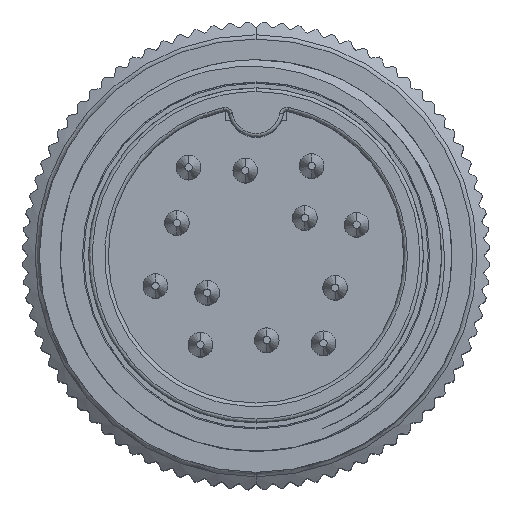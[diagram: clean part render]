
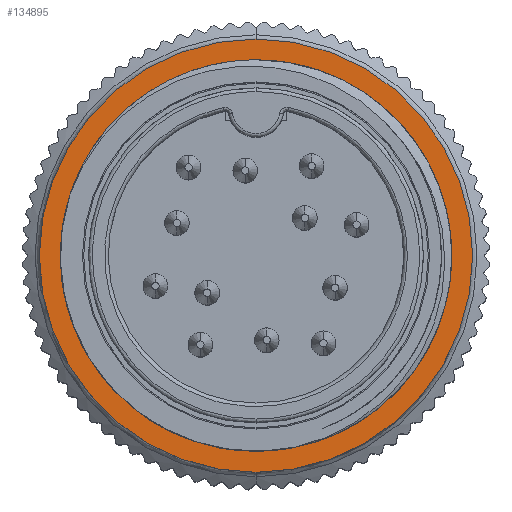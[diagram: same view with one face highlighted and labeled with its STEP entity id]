
A CAD part, top view. The second image highlights one B-rep face of the part: STEP entity #134895.
In plain terms, the highlighted planar face has unit normal (0, 0, 1).
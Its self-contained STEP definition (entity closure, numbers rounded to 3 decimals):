
#9803 = AXIS2_PLACEMENT_3D ( 'NONE', #12072, #93695, #194557 ) ;
#10994 = CIRCLE ( 'NONE', #174053, 7.95 ) ;
#12072 = CARTESIAN_POINT ( 'NONE',  ( 0., 0., -9.2 ) ) ;
#16065 = EDGE_CURVE ( 'NONE', #62329, #53335, #124052, .T. ) ;
#16671 = EDGE_CURVE ( 'NONE', #213331, #76345, #117515, .T. ) ;
#16959 = FACE_OUTER_BOUND ( 'NONE', #65692, .T. ) ;
#26178 = CARTESIAN_POINT ( 'NONE',  ( 0., 0., -9.2 ) ) ;
#27186 = EDGE_LOOP ( 'NONE', ( #128114, #207873, #169670 ) ) ;
#31149 = ORIENTED_EDGE ( 'NONE', *, *, #95324, .F. ) ;
#38713 = AXIS2_PLACEMENT_3D ( 'NONE', #191358, #108891, #175108 ) ;
#38732 = ORIENTED_EDGE ( 'NONE', *, *, #16065, .F. ) ;
#39532 = CARTESIAN_POINT ( 'NONE',  ( 0., 7.95, -9.2 ) ) ;
#48725 = DIRECTION ( 'NONE',  ( -1., 0., 0. ) ) ;
#53082 = DIRECTION ( 'NONE',  ( 0., 0., -1. ) ) ;
#53335 = VERTEX_POINT ( 'NONE', #90173 ) ;
#62329 = VERTEX_POINT ( 'NONE', #141811 ) ;
#65692 = EDGE_LOOP ( 'NONE', ( #31149, #38732 ) ) ;
#76345 = VERTEX_POINT ( 'NONE', #111692 ) ;
#81516 = DIRECTION ( 'NONE',  ( 0., 0., 1. ) ) ;
#90173 = CARTESIAN_POINT ( 'NONE',  ( 0., 8.8, -9.2 ) ) ;
#93695 = DIRECTION ( 'NONE',  ( 0., 0., 1. ) ) ;
#94817 = CIRCLE ( 'NONE', #122589, 8.8 ) ;
#95324 = EDGE_CURVE ( 'NONE', #53335, #62329, #94817, .T. ) ;
#108891 = DIRECTION ( 'NONE',  ( 0., 0., 1. ) ) ;
#111692 = CARTESIAN_POINT ( 'NONE',  ( -6.885, -3.975, -9.2 ) ) ;
#115887 = FACE_BOUND ( 'NONE', #27186, .T. ) ;
#116220 = EDGE_CURVE ( 'NONE', #177500, #213331, #118615, .T. ) ;
#117515 = CIRCLE ( 'NONE', #9803, 7.95 ) ;
#118044 = CARTESIAN_POINT ( 'NONE',  ( 0., 0., -9.2 ) ) ;
#118615 = CIRCLE ( 'NONE', #38713, 7.95 ) ;
#120468 = DIRECTION ( 'NONE',  ( -1., 0., 0. ) ) ;
#122589 = AXIS2_PLACEMENT_3D ( 'NONE', #172529, #53082, #120468 ) ;
#124052 = CIRCLE ( 'NONE', #151725, 8.8 ) ;
#128114 = ORIENTED_EDGE ( 'NONE', *, *, #16671, .F. ) ;
#134895 = ADVANCED_FACE ( 'NONE', ( #115887, #16959 ), #201557, .F. ) ;
#137435 = CARTESIAN_POINT ( 'NONE',  ( -0.576, 7.929, -9.2 ) ) ;
#141811 = CARTESIAN_POINT ( 'NONE',  ( 0., -8.8, -9.2 ) ) ;
#148644 = CARTESIAN_POINT ( 'NONE',  ( 0., 0., -9.2 ) ) ;
#151725 = AXIS2_PLACEMENT_3D ( 'NONE', #148644, #200680, #48725 ) ;
#165831 = DIRECTION ( 'NONE',  ( -1., 0., 0. ) ) ;
#166898 = DIRECTION ( 'NONE',  ( 0., 0., -1. ) ) ;
#168047 = AXIS2_PLACEMENT_3D ( 'NONE', #118044, #166898, #165831 ) ;
#169670 = ORIENTED_EDGE ( 'NONE', *, *, #201048, .F. ) ;
#172529 = CARTESIAN_POINT ( 'NONE',  ( 0., 0., -9.2 ) ) ;
#174053 = AXIS2_PLACEMENT_3D ( 'NONE', #26178, #81516, #213915 ) ;
#175108 = DIRECTION ( 'NONE',  ( -1., 0., 0. ) ) ;
#177500 = VERTEX_POINT ( 'NONE', #39532 ) ;
#191358 = CARTESIAN_POINT ( 'NONE',  ( 0., 0., -9.2 ) ) ;
#194557 = DIRECTION ( 'NONE',  ( -1., 0., 0. ) ) ;
#200680 = DIRECTION ( 'NONE',  ( 0., 0., -1. ) ) ;
#201048 = EDGE_CURVE ( 'NONE', #76345, #177500, #10994, .T. ) ;
#201557 = PLANE ( 'NONE',  #168047 ) ;
#207873 = ORIENTED_EDGE ( 'NONE', *, *, #116220, .F. ) ;
#213331 = VERTEX_POINT ( 'NONE', #137435 ) ;
#213915 = DIRECTION ( 'NONE',  ( -1., 0., 0. ) ) ;
